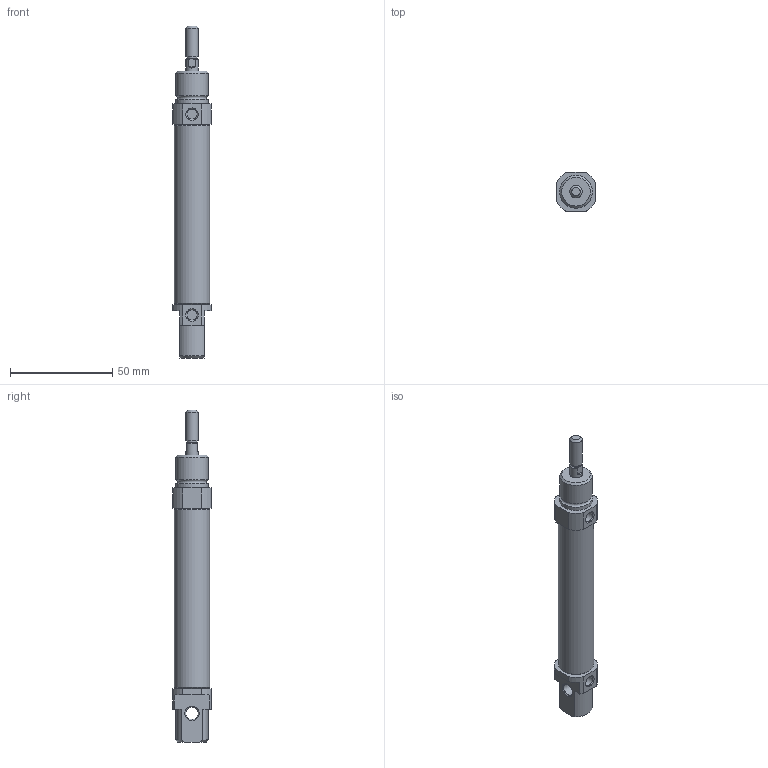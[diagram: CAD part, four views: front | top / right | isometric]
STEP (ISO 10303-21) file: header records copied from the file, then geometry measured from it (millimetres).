
FILE_DESCRIPTION((''),'2;1');
FILE_NAME('I:\3D電子目錄\氣缸\SDA\SDA16\SDA16\SDA16x50.stp','2007-08-06T10:28:59',('Administrator'),(''),'Autodesk Inventor 2008','Autodesk Inventor 2008','');
FILE_SCHEMA(('AUTOMOTIVE_DESIGN { 1 0 10303 214 1 1 1 1 }'));
Length unit declared in the file: millimetre
Products named in the file (1): SDA16X50
Bounding box: 19 x 19 x 162 mm (x, y, z)
Volume: 31981.4 mm3; surface area: 9312.3 mm2
Topology: 1 solids, 1 shells, 60 faces, 138 edges, 88 vertices
Faces by surface type: plane 26, cylinder 19, cone 12, bspline 2, torus 1
Full cylindrical faces by diameter (mm): 4.6 x1, 5 x2, 6 x3, 16 x2, 17.2 x1
Entity records: 1626 total; most frequent: CARTESIAN_POINT 289, DIRECTION 286, ORIENTED_EDGE 238, EDGE_CURVE 119, AXIS2_PLACEMENT_3D 116, EDGE_LOOP 88, VERTEX_POINT 87, FACE_OUTER_BOUND 60
